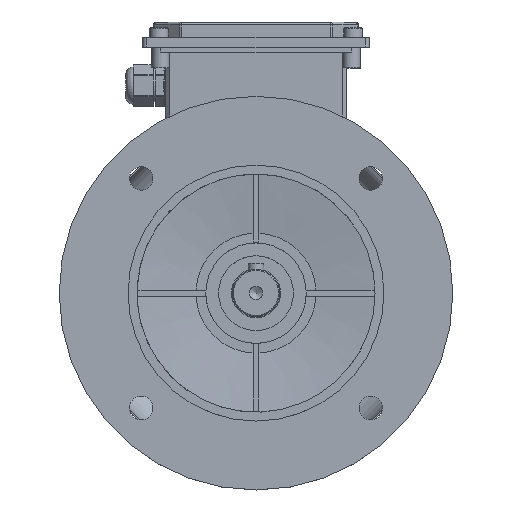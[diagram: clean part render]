
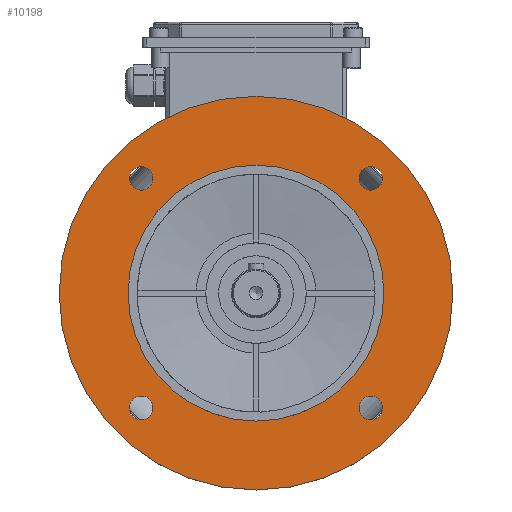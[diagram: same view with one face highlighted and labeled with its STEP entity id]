
A CAD part, top view. The second image highlights one B-rep face of the part: STEP entity #10198.
In plain terms, the highlighted planar face has unit normal (0, 0, 1).
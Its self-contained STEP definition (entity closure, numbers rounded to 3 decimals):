
#1995=FACE_BOUND('',#3439,.T.);
#1996=FACE_BOUND('',#3440,.T.);
#1997=FACE_BOUND('',#3441,.T.);
#1998=FACE_BOUND('',#3442,.T.);
#1999=FACE_BOUND('',#3443,.T.);
#2751=FACE_OUTER_BOUND('',#3438,.T.);
#3438=EDGE_LOOP('',(#8901));
#3439=EDGE_LOOP('',(#8902));
#3440=EDGE_LOOP('',(#8903));
#3441=EDGE_LOOP('',(#8904));
#3442=EDGE_LOOP('',(#8905));
#3443=EDGE_LOOP('',(#8906));
#3924=CIRCLE('',#11184,100.);
#3925=CIRCLE('',#11185,6.);
#3926=CIRCLE('',#11186,6.);
#3927=CIRCLE('',#11187,6.);
#3928=CIRCLE('',#11188,6.);
#3929=CIRCLE('',#11189,65.);
#4851=VERTEX_POINT('',#17453);
#4852=VERTEX_POINT('',#17455);
#4853=VERTEX_POINT('',#17457);
#4854=VERTEX_POINT('',#17459);
#4855=VERTEX_POINT('',#17461);
#4856=VERTEX_POINT('',#17463);
#6243=EDGE_CURVE('',#4851,#4851,#3924,.T.);
#6244=EDGE_CURVE('',#4852,#4852,#3925,.T.);
#6245=EDGE_CURVE('',#4853,#4853,#3926,.T.);
#6246=EDGE_CURVE('',#4854,#4854,#3927,.T.);
#6247=EDGE_CURVE('',#4855,#4855,#3928,.T.);
#6248=EDGE_CURVE('',#4856,#4856,#3929,.T.);
#8901=ORIENTED_EDGE('',*,*,#6243,.F.);
#8902=ORIENTED_EDGE('',*,*,#6244,.F.);
#8903=ORIENTED_EDGE('',*,*,#6245,.F.);
#8904=ORIENTED_EDGE('',*,*,#6246,.F.);
#8905=ORIENTED_EDGE('',*,*,#6247,.F.);
#8906=ORIENTED_EDGE('',*,*,#6248,.F.);
#9637=PLANE('',#11183);
#10198=ADVANCED_FACE('',(#2751,#1995,#1996,#1997,#1998,#1999),#9637,.T.);
#11183=AXIS2_PLACEMENT_3D('',#17452,#13893,#13894);
#11184=AXIS2_PLACEMENT_3D('',#17454,#13895,#13896);
#11185=AXIS2_PLACEMENT_3D('',#17456,#13897,#13898);
#11186=AXIS2_PLACEMENT_3D('',#17458,#13899,#13900);
#11187=AXIS2_PLACEMENT_3D('',#17460,#13901,#13902);
#11188=AXIS2_PLACEMENT_3D('',#17462,#13903,#13904);
#11189=AXIS2_PLACEMENT_3D('',#17464,#13905,#13906);
#13893=DIRECTION('center_axis',(0.,0.,1.));
#13894=DIRECTION('ref_axis',(1.,0.,0.));
#13895=DIRECTION('center_axis',(0.,0.,-1.));
#13896=DIRECTION('ref_axis',(0.,1.,0.));
#13897=DIRECTION('center_axis',(0.,0.,1.));
#13898=DIRECTION('ref_axis',(1.,0.,0.));
#13899=DIRECTION('center_axis',(0.,0.,1.));
#13900=DIRECTION('ref_axis',(0.,1.,0.));
#13901=DIRECTION('center_axis',(0.,0.,1.));
#13902=DIRECTION('ref_axis',(-1.,0.,0.));
#13903=DIRECTION('center_axis',(0.,0.,1.));
#13904=DIRECTION('ref_axis',(0.,-1.,0.));
#13905=DIRECTION('center_axis',(0.,0.,1.));
#13906=DIRECTION('ref_axis',(-1.,0.,0.));
#17452=CARTESIAN_POINT('Origin',(0.,0.,
101.25));
#17453=CARTESIAN_POINT('',(0.,-100.,101.25));
#17454=CARTESIAN_POINT('Origin',(0.,0.,101.25));
#17455=CARTESIAN_POINT('',(-64.336,58.336,101.25));
#17456=CARTESIAN_POINT('Origin',(-58.336,58.336,101.25));
#17457=CARTESIAN_POINT('',(-58.336,-64.336,101.25));
#17458=CARTESIAN_POINT('Origin',(-58.336,-58.336,101.25));
#17459=CARTESIAN_POINT('',(64.336,-58.336,101.25));
#17460=CARTESIAN_POINT('Origin',(58.336,-58.336,101.25));
#17461=CARTESIAN_POINT('',(58.336,64.336,101.25));
#17462=CARTESIAN_POINT('Origin',(58.336,58.336,101.25));
#17463=CARTESIAN_POINT('',(65.,0.,101.25));
#17464=CARTESIAN_POINT('Origin',(0.,0.,101.25));
